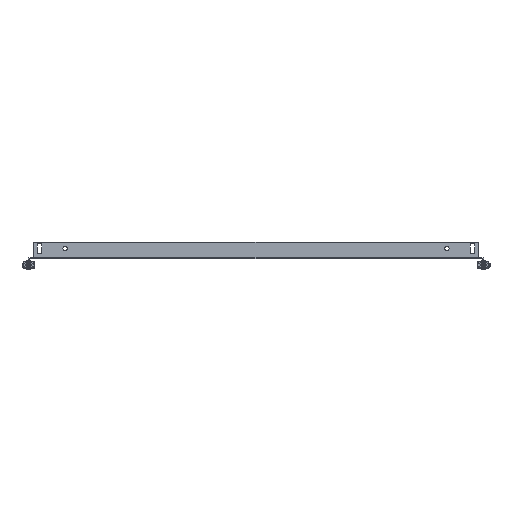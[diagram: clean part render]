
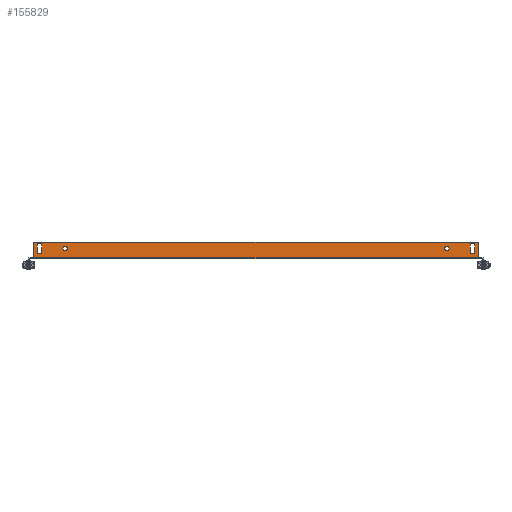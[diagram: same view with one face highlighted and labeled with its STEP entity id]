
A CAD part, front view. The second image highlights one B-rep face of the part: STEP entity #155829.
In plain terms, the highlighted planar face has unit normal (0, -1, 0).
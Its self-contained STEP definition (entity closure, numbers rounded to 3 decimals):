
#143188 = VERTEX_POINT('',#143189);
#143189 = CARTESIAN_POINT('',(342.,-434.5,0.));
#143195 = EDGE_CURVE('',#143196,#143188,#143198,.T.);
#143196 = VERTEX_POINT('',#143197);
#143197 = CARTESIAN_POINT('',(-342.,-434.5,0.));
#143198 = LINE('',#143199,#143200);
#143199 = CARTESIAN_POINT('',(-342.,-434.5,0.));
#143200 = VECTOR('',#143201,1.);
#143201 = DIRECTION('',(1.,-0.,-0.));
#155708 = VERTEX_POINT('',#155709);
#155709 = CARTESIAN_POINT('',(-342.,-434.5,2.6));
#155724 = EDGE_CURVE('',#155708,#143196,#155725,.T.);
#155725 = LINE('',#155726,#155727);
#155726 = CARTESIAN_POINT('',(-342.,-434.5,2.6));
#155727 = VECTOR('',#155728,1.);
#155728 = DIRECTION('',(0.,0.,-1.));
#155748 = VERTEX_POINT('',#155749);
#155749 = CARTESIAN_POINT('',(342.,-434.5,2.6));
#155755 = EDGE_CURVE('',#155748,#143188,#155756,.T.);
#155756 = LINE('',#155757,#155758);
#155757 = CARTESIAN_POINT('',(342.,-434.5,2.));
#155758 = VECTOR('',#155759,1.);
#155759 = DIRECTION('',(-0.,0.,-1.));
#155781 = VERTEX_POINT('',#155782);
#155782 = CARTESIAN_POINT('',(342.,-434.5,26.));
#155788 = EDGE_CURVE('',#155748,#155781,#155789,.T.);
#155789 = LINE('',#155790,#155791);
#155790 = CARTESIAN_POINT('',(342.,-434.5,26.));
#155791 = VECTOR('',#155792,1.);
#155792 = DIRECTION('',(-0.,0.,1.));
#155803 = EDGE_CURVE('',#155804,#155708,#155806,.T.);
#155804 = VERTEX_POINT('',#155805);
#155805 = CARTESIAN_POINT('',(-342.,-434.5,26.));
#155806 = LINE('',#155807,#155808);
#155807 = CARTESIAN_POINT('',(-342.,-434.5,2.));
#155808 = VECTOR('',#155809,1.);
#155809 = DIRECTION('',(-0.,0.,-1.));
#155829 = ADVANCED_FACE('',(#155830,#155864,#155875,#155886,#155920),
  #155933,.F.);
#155830 = FACE_BOUND('',#155831,.T.);
#155831 = EDGE_LOOP('',(#155832,#155842,#155850,#155858));
#155832 = ORIENTED_EDGE('',*,*,#155833,.F.);
#155833 = EDGE_CURVE('',#155834,#155836,#155838,.T.);
#155834 = VERTEX_POINT('',#155835);
#155835 = CARTESIAN_POINT('',(336.5,-434.5,9.));
#155836 = VERTEX_POINT('',#155837);
#155837 = CARTESIAN_POINT('',(336.5,-434.5,23.));
#155838 = LINE('',#155839,#155840);
#155839 = CARTESIAN_POINT('',(336.5,-434.5,23.));
#155840 = VECTOR('',#155841,1.);
#155841 = DIRECTION('',(-0.,-0.,1.));
#155842 = ORIENTED_EDGE('',*,*,#155843,.F.);
#155843 = EDGE_CURVE('',#155844,#155834,#155846,.T.);
#155844 = VERTEX_POINT('',#155845);
#155845 = CARTESIAN_POINT('',(329.5,-434.5,9.));
#155846 = LINE('',#155847,#155848);
#155847 = CARTESIAN_POINT('',(336.5,-434.5,9.));
#155848 = VECTOR('',#155849,1.);
#155849 = DIRECTION('',(1.,-0.,-0.));
#155850 = ORIENTED_EDGE('',*,*,#155851,.F.);
#155851 = EDGE_CURVE('',#155852,#155844,#155854,.T.);
#155852 = VERTEX_POINT('',#155853);
#155853 = CARTESIAN_POINT('',(329.5,-434.5,23.));
#155854 = LINE('',#155855,#155856);
#155855 = CARTESIAN_POINT('',(329.5,-434.5,9.));
#155856 = VECTOR('',#155857,1.);
#155857 = DIRECTION('',(0.,-0.,-1.));
#155858 = ORIENTED_EDGE('',*,*,#155859,.F.);
#155859 = EDGE_CURVE('',#155836,#155852,#155860,.T.);
#155860 = LINE('',#155861,#155862);
#155861 = CARTESIAN_POINT('',(329.5,-434.5,23.));
#155862 = VECTOR('',#155863,1.);
#155863 = DIRECTION('',(-1.,-0.,-0.));
#155864 = FACE_BOUND('',#155865,.T.);
#155865 = EDGE_LOOP('',(#155866));
#155866 = ORIENTED_EDGE('',*,*,#155867,.F.);
#155867 = EDGE_CURVE('',#155868,#155868,#155870,.T.);
#155868 = VERTEX_POINT('',#155869);
#155869 = CARTESIAN_POINT('',(293.5,-434.5,19.5));
#155870 = CIRCLE('',#155871,3.5);
#155871 = AXIS2_PLACEMENT_3D('',#155872,#155873,#155874);
#155872 = CARTESIAN_POINT('',(293.5,-434.5,16.));
#155873 = DIRECTION('',(0.,-1.,0.));
#155874 = DIRECTION('',(0.,0.,1.));
#155875 = FACE_BOUND('',#155876,.T.);
#155876 = EDGE_LOOP('',(#155877));
#155877 = ORIENTED_EDGE('',*,*,#155878,.F.);
#155878 = EDGE_CURVE('',#155879,#155879,#155881,.T.);
#155879 = VERTEX_POINT('',#155880);
#155880 = CARTESIAN_POINT('',(-293.5,-434.5,12.5));
#155881 = CIRCLE('',#155882,3.5);
#155882 = AXIS2_PLACEMENT_3D('',#155883,#155884,#155885);
#155883 = CARTESIAN_POINT('',(-293.5,-434.5,16.));
#155884 = DIRECTION('',(0.,-1.,0.));
#155885 = DIRECTION('',(0.,0.,-1.));
#155886 = FACE_BOUND('',#155887,.T.);
#155887 = EDGE_LOOP('',(#155888,#155898,#155906,#155914));
#155888 = ORIENTED_EDGE('',*,*,#155889,.F.);
#155889 = EDGE_CURVE('',#155890,#155892,#155894,.T.);
#155890 = VERTEX_POINT('',#155891);
#155891 = CARTESIAN_POINT('',(-336.5,-434.5,23.));
#155892 = VERTEX_POINT('',#155893);
#155893 = CARTESIAN_POINT('',(-336.5,-434.5,9.));
#155894 = LINE('',#155895,#155896);
#155895 = CARTESIAN_POINT('',(-336.5,-434.5,9.));
#155896 = VECTOR('',#155897,1.);
#155897 = DIRECTION('',(-0.,-0.,-1.));
#155898 = ORIENTED_EDGE('',*,*,#155899,.F.);
#155899 = EDGE_CURVE('',#155900,#155890,#155902,.T.);
#155900 = VERTEX_POINT('',#155901);
#155901 = CARTESIAN_POINT('',(-329.5,-434.5,23.));
#155902 = LINE('',#155903,#155904);
#155903 = CARTESIAN_POINT('',(-336.5,-434.5,23.));
#155904 = VECTOR('',#155905,1.);
#155905 = DIRECTION('',(-1.,-0.,-0.));
#155906 = ORIENTED_EDGE('',*,*,#155907,.F.);
#155907 = EDGE_CURVE('',#155908,#155900,#155910,.T.);
#155908 = VERTEX_POINT('',#155909);
#155909 = CARTESIAN_POINT('',(-329.5,-434.5,9.));
#155910 = LINE('',#155911,#155912);
#155911 = CARTESIAN_POINT('',(-329.5,-434.5,23.));
#155912 = VECTOR('',#155913,1.);
#155913 = DIRECTION('',(-0.,-0.,1.));
#155914 = ORIENTED_EDGE('',*,*,#155915,.F.);
#155915 = EDGE_CURVE('',#155892,#155908,#155916,.T.);
#155916 = LINE('',#155917,#155918);
#155917 = CARTESIAN_POINT('',(-329.5,-434.5,9.));
#155918 = VECTOR('',#155919,1.);
#155919 = DIRECTION('',(1.,-0.,-0.));
#155920 = FACE_BOUND('',#155921,.T.);
#155921 = EDGE_LOOP('',(#155922,#155923,#155924,#155925,#155926,#155927)
  );
#155922 = ORIENTED_EDGE('',*,*,#155803,.T.);
#155923 = ORIENTED_EDGE('',*,*,#155724,.T.);
#155924 = ORIENTED_EDGE('',*,*,#143195,.T.);
#155925 = ORIENTED_EDGE('',*,*,#155755,.F.);
#155926 = ORIENTED_EDGE('',*,*,#155788,.T.);
#155927 = ORIENTED_EDGE('',*,*,#155928,.T.);
#155928 = EDGE_CURVE('',#155781,#155804,#155929,.T.);
#155929 = LINE('',#155930,#155931);
#155930 = CARTESIAN_POINT('',(-342.,-434.5,26.));
#155931 = VECTOR('',#155932,1.);
#155932 = DIRECTION('',(-1.,-0.,-0.));
#155933 = PLANE('',#155934);
#155934 = AXIS2_PLACEMENT_3D('',#155935,#155936,#155937);
#155935 = CARTESIAN_POINT('',(342.,-434.5,2.));
#155936 = DIRECTION('',(-0.,1.,0.));
#155937 = DIRECTION('',(0.,0.,1.));
